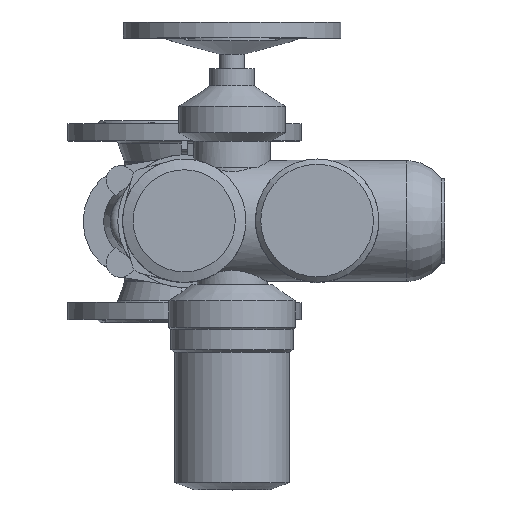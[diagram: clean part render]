
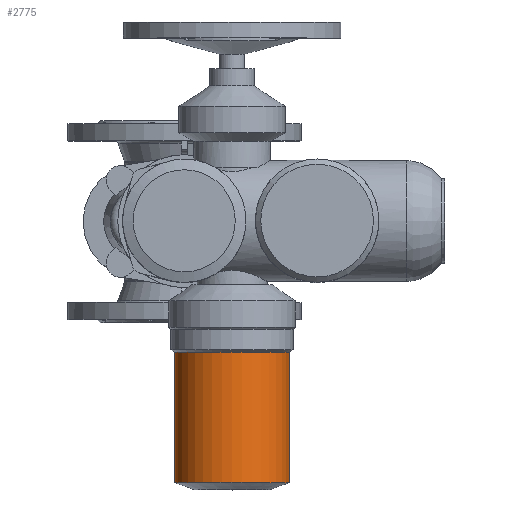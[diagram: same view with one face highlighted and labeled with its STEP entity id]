
A CAD part, top view. The second image highlights one B-rep face of the part: STEP entity #2775.
In plain terms, the highlighted cylindrical face has radius 54 mm (diameter 108 mm), a full revolution.
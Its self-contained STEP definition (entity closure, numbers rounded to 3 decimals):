
#2775=ADVANCED_FACE('',(#5917,#5919),#5921,.T.);
#5917=FACE_OUTER_BOUND('',#5918,.T.);
#5918=EDGE_LOOP('',(#7638));
#5919=FACE_OUTER_BOUND('',#5920,.T.);
#5920=EDGE_LOOP('',(#7639));
#5921=CYLINDRICAL_SURFACE('',#5922,54.);
#5922=AXIS2_PLACEMENT_3D('',#5923,#5924,#5925);
#5923=CARTESIAN_POINT('',(45.,-246.085,433.));
#5924=DIRECTION('',(0.,1.,0.));
#5925=DIRECTION('',(0.,0.,1.));
#7638=ORIENTED_EDGE('',*,*,#8515,.F.);
#7639=ORIENTED_EDGE('',*,*,#8529,.T.);
#8515=EDGE_CURVE('',#9900,#9900,#9901,.T.);
#8529=EDGE_CURVE('',#9928,#9928,#9929,.T.);
#9900=VERTEX_POINT('',#16261);
#9901=CIRCLE('',#16262,54.);
#9928=VERTEX_POINT('',#16325);
#9929=CIRCLE('',#16326,54.);
#16261=CARTESIAN_POINT('',(45.,-123.505,487.));
#16262=AXIS2_PLACEMENT_3D('',#16263,#16264,#16265);
#16263=CARTESIAN_POINT('',(45.,-123.505,433.));
#16264=DIRECTION('',(0.,1.,0.));
#16265=DIRECTION('',(0.,0.,1.));
#16325=CARTESIAN_POINT('',(45.,-246.085,487.));
#16326=AXIS2_PLACEMENT_3D('',#16327,#16328,#16329);
#16327=CARTESIAN_POINT('',(45.,-246.085,433.));
#16328=DIRECTION('',(0.,1.,0.));
#16329=DIRECTION('',(0.,0.,1.));
